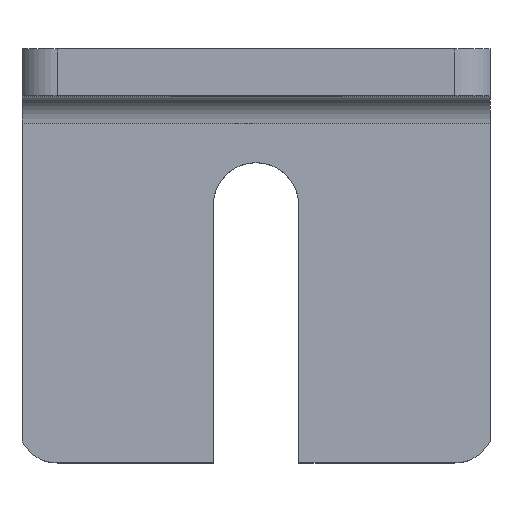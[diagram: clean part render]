
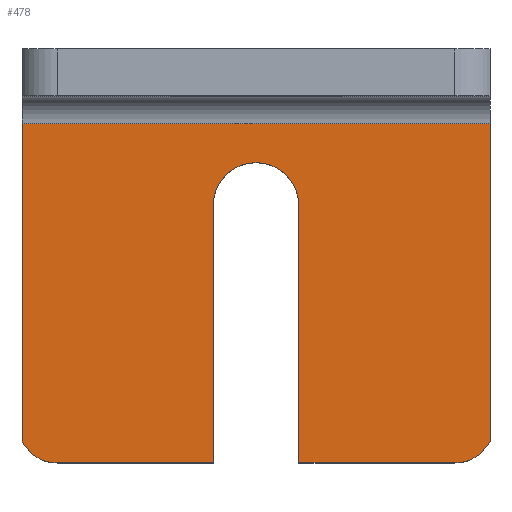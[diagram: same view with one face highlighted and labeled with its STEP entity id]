
A CAD part, top view. The second image highlights one B-rep face of the part: STEP entity #478.
In plain terms, the highlighted planar face has unit normal (0, 0, 1).
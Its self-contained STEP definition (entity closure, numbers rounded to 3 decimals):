
#30=CIRCLE('',#513,5.);
#31=CIRCLE('',#514,5.5);
#32=CIRCLE('',#515,5.);
#52=FACE_OUTER_BOUND('',#80,.T.);
#80=EDGE_LOOP('',(#350,#351,#352,#353,#354,#355,#356,#357,#358,#359));
#120=LINE('',#730,#170);
#124=LINE('',#737,#174);
#125=LINE('',#742,#175);
#126=LINE('',#744,#176);
#127=LINE('',#748,#177);
#128=LINE('',#750,#178);
#129=LINE('',#753,#179);
#170=VECTOR('',#588,60.);
#174=VECTOR('',#594,40.679);
#175=VECTOR('',#599,20.);
#176=VECTOR('',#600,33.);
#177=VECTOR('',#603,33.);
#178=VECTOR('',#604,20.);
#179=VECTOR('',#607,40.679);
#213=VERTEX_POINT('',#714);
#216=VERTEX_POINT('',#721);
#219=VERTEX_POINT('',#735);
#220=VERTEX_POINT('',#739);
#221=VERTEX_POINT('',#741);
#222=VERTEX_POINT('',#743);
#223=VERTEX_POINT('',#745);
#224=VERTEX_POINT('',#747);
#225=VERTEX_POINT('',#749);
#226=VERTEX_POINT('',#751);
#266=EDGE_CURVE('',#213,#216,#120,.T.);
#270=EDGE_CURVE('',#219,#216,#124,.T.);
#271=EDGE_CURVE('',#220,#219,#30,.T.);
#272=EDGE_CURVE('',#221,#220,#125,.T.);
#273=EDGE_CURVE('',#222,#221,#126,.T.);
#274=EDGE_CURVE('',#223,#222,#31,.T.);
#275=EDGE_CURVE('',#224,#223,#127,.T.);
#276=EDGE_CURVE('',#225,#224,#128,.T.);
#277=EDGE_CURVE('',#226,#225,#32,.T.);
#278=EDGE_CURVE('',#213,#226,#129,.T.);
#350=ORIENTED_EDGE('',*,*,#266,.T.);
#351=ORIENTED_EDGE('',*,*,#270,.F.);
#352=ORIENTED_EDGE('',*,*,#271,.F.);
#353=ORIENTED_EDGE('',*,*,#272,.F.);
#354=ORIENTED_EDGE('',*,*,#273,.F.);
#355=ORIENTED_EDGE('',*,*,#274,.F.);
#356=ORIENTED_EDGE('',*,*,#275,.F.);
#357=ORIENTED_EDGE('',*,*,#276,.F.);
#358=ORIENTED_EDGE('',*,*,#277,.F.);
#359=ORIENTED_EDGE('',*,*,#278,.F.);
#450=PLANE('',#512);
#478=ADVANCED_FACE('',(#52),#450,.T.);
#512=AXIS2_PLACEMENT_3D('',#738,#595,#596);
#513=AXIS2_PLACEMENT_3D('',#740,#597,#598);
#514=AXIS2_PLACEMENT_3D('',#746,#601,#602);
#515=AXIS2_PLACEMENT_3D('',#752,#605,#606);
#588=DIRECTION('',(-1.,0.,0.));
#594=DIRECTION('',(0.,1.,0.));
#595=DIRECTION('center_axis',(0.,0.,1.));
#596=DIRECTION('ref_axis',(1.,0.,0.));
#597=DIRECTION('center_axis',(0.,0.,-1.));
#598=DIRECTION('ref_axis',(-0.9,-0.436,0.));
#599=DIRECTION('',(-1.,0.,0.));
#600=DIRECTION('',(0.,-1.,0.));
#601=DIRECTION('center_axis',(0.,0.,1.));
#602=DIRECTION('ref_axis',(-1.,0.,0.));
#603=DIRECTION('',(0.,1.,0.));
#604=DIRECTION('',(-1.,0.,0.));
#605=DIRECTION('center_axis',(0.,0.,-1.));
#606=DIRECTION('ref_axis',(0.,-1.,0.));
#607=DIRECTION('',(0.,-1.,0.));
#714=CARTESIAN_POINT('',(30.,-34.5,6.));
#721=CARTESIAN_POINT('',(-30.,-34.5,6.));
#730=CARTESIAN_POINT('',(-15.,-34.5,6.));
#735=CARTESIAN_POINT('',(-30.,-75.179,6.));
#737=CARTESIAN_POINT('',(-30.,12.179,6.));
#738=CARTESIAN_POINT('Origin',(0.,-35.935,6.));
#739=CARTESIAN_POINT('',(-25.5,-78.,6.));
#740=CARTESIAN_POINT('Origin',(-25.5,-73.,6.));
#741=CARTESIAN_POINT('',(-5.5,-78.,6.));
#742=CARTESIAN_POINT('',(-25.5,-78.,6.));
#743=CARTESIAN_POINT('',(-5.5,-45.,6.));
#744=CARTESIAN_POINT('',(-5.5,-78.,6.));
#745=CARTESIAN_POINT('',(5.5,-45.,6.));
#746=CARTESIAN_POINT('Origin',(0.,-45.,6.));
#747=CARTESIAN_POINT('',(5.5,-78.,6.));
#748=CARTESIAN_POINT('',(5.5,-45.,6.));
#749=CARTESIAN_POINT('',(25.5,-78.,6.));
#750=CARTESIAN_POINT('',(5.5,-78.,6.));
#751=CARTESIAN_POINT('',(30.,-75.179,6.));
#752=CARTESIAN_POINT('Origin',(25.5,-73.,6.));
#753=CARTESIAN_POINT('',(30.,-75.179,6.));
